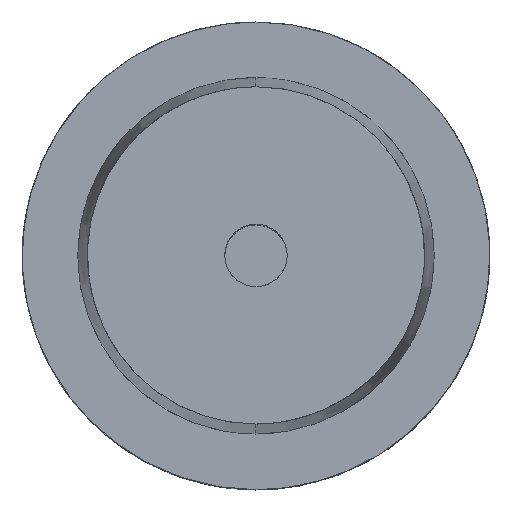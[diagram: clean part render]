
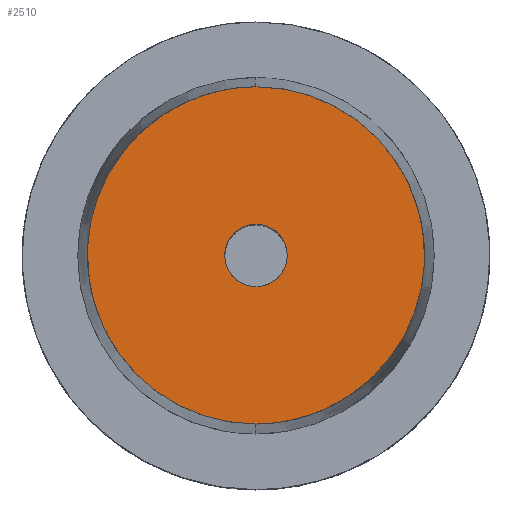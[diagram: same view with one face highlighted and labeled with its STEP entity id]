
A CAD part, top view. The second image highlights one B-rep face of the part: STEP entity #2510.
In plain terms, the highlighted planar face has unit normal (0, 0, -1).
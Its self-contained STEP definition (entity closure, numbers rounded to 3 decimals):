
#2510 = ADVANCED_FACE('',(#2511,#2558),#2527,.T.);
#2511 = FACE_BOUND('',#2512,.T.);
#2512 = EDGE_LOOP('',(#2513,#2540));
#2513 = ORIENTED_EDGE('',*,*,#2514,.T.);
#2514 = EDGE_CURVE('',#2515,#2517,#2519,.T.);
#2515 = VERTEX_POINT('',#2516);
#2516 = CARTESIAN_POINT('',(0.,22.717,32.));
#2517 = VERTEX_POINT('',#2518);
#2518 = CARTESIAN_POINT('',(0.,-22.717,32.));
#2519 = SURFACE_CURVE('',#2520,(#2526),.PCURVE_S1.);
#2520 = ( BOUNDED_CURVE() B_SPLINE_CURVE(2,(#2521,#2522,#2523,#2524,
#2525),.UNSPECIFIED.,.F.,.F.) B_SPLINE_CURVE_WITH_KNOTS((3,2,3),(0.,0.5,
1.),.PIECEWISE_BEZIER_KNOTS.) CURVE() GEOMETRIC_REPRESENTATION_ITEM() 
RATIONAL_B_SPLINE_CURVE((1.,0.707,1.,0.707,1.)) 
REPRESENTATION_ITEM('') );
#2521 = CARTESIAN_POINT('',(0.,22.717,32.));
#2522 = CARTESIAN_POINT('',(22.717,22.717,32.));
#2523 = CARTESIAN_POINT('',(22.717,0.,32.));
#2524 = CARTESIAN_POINT('',(22.717,-22.717,32.));
#2525 = CARTESIAN_POINT('',(0.,-22.717,32.));
#2526 = PCURVE('',#2527,#2532);
#2527 = PLANE('',#2528);
#2528 = AXIS2_PLACEMENT_3D('',#2529,#2530,#2531);
#2529 = CARTESIAN_POINT('',(0.,0.,32.)
  );
#2530 = DIRECTION('',(0.,0.,-1.));
#2531 = DIRECTION('',(0.,1.,0.));
#2532 = DEFINITIONAL_REPRESENTATION('',(#2533),#2539);
#2533 = ( BOUNDED_CURVE() B_SPLINE_CURVE(2,(#2534,#2535,#2536,#2537,
#2538),.UNSPECIFIED.,.F.,.F.) B_SPLINE_CURVE_WITH_KNOTS((3,2,3),(0.,0.5,
1.),.PIECEWISE_BEZIER_KNOTS.) CURVE() GEOMETRIC_REPRESENTATION_ITEM() 
RATIONAL_B_SPLINE_CURVE((1.,0.707,1.,0.707,1.)) 
REPRESENTATION_ITEM('') );
#2534 = CARTESIAN_POINT('',(22.717,0.));
#2535 = CARTESIAN_POINT('',(22.717,22.717));
#2536 = CARTESIAN_POINT('',(0.,22.717));
#2537 = CARTESIAN_POINT('',(-22.717,22.717));
#2538 = CARTESIAN_POINT('',(-22.717,0.));
#2539 = ( GEOMETRIC_REPRESENTATION_CONTEXT(2) 
PARAMETRIC_REPRESENTATION_CONTEXT() REPRESENTATION_CONTEXT('2D SPACE',''
  ) );
#2540 = ORIENTED_EDGE('',*,*,#2541,.T.);
#2541 = EDGE_CURVE('',#2517,#2515,#2542,.T.);
#2542 = SURFACE_CURVE('',#2543,(#2549),.PCURVE_S1.);
#2543 = ( BOUNDED_CURVE() B_SPLINE_CURVE(2,(#2544,#2545,#2546,#2547,
#2548),.UNSPECIFIED.,.F.,.F.) B_SPLINE_CURVE_WITH_KNOTS((3,2,3),(0.,0.5,
1.),.PIECEWISE_BEZIER_KNOTS.) CURVE() GEOMETRIC_REPRESENTATION_ITEM() 
RATIONAL_B_SPLINE_CURVE((1.,0.707,1.,0.707,1.)) 
REPRESENTATION_ITEM('') );
#2544 = CARTESIAN_POINT('',(0.,-22.717,32.));
#2545 = CARTESIAN_POINT('',(-22.717,-22.717,32.));
#2546 = CARTESIAN_POINT('',(-22.717,0.,32.));
#2547 = CARTESIAN_POINT('',(-22.717,22.717,32.));
#2548 = CARTESIAN_POINT('',(0.,22.717,32.));
#2549 = PCURVE('',#2527,#2550);
#2550 = DEFINITIONAL_REPRESENTATION('',(#2551),#2557);
#2551 = ( BOUNDED_CURVE() B_SPLINE_CURVE(2,(#2552,#2553,#2554,#2555,
#2556),.UNSPECIFIED.,.F.,.F.) B_SPLINE_CURVE_WITH_KNOTS((3,2,3),(0.,0.5,
1.),.PIECEWISE_BEZIER_KNOTS.) CURVE() GEOMETRIC_REPRESENTATION_ITEM() 
RATIONAL_B_SPLINE_CURVE((1.,0.707,1.,0.707,1.)) 
REPRESENTATION_ITEM('') );
#2552 = CARTESIAN_POINT('',(-22.717,0.));
#2553 = CARTESIAN_POINT('',(-22.717,-22.717));
#2554 = CARTESIAN_POINT('',(0.,-22.717));
#2555 = CARTESIAN_POINT('',(22.717,-22.717));
#2556 = CARTESIAN_POINT('',(22.717,0.));
#2557 = ( GEOMETRIC_REPRESENTATION_CONTEXT(2) 
PARAMETRIC_REPRESENTATION_CONTEXT() REPRESENTATION_CONTEXT('2D SPACE',''
  ) );
#2558 = FACE_BOUND('',#2559,.T.);
#2559 = EDGE_LOOP('',(#2560,#2582));
#2560 = ORIENTED_EDGE('',*,*,#2561,.T.);
#2561 = EDGE_CURVE('',#2562,#2564,#2566,.T.);
#2562 = VERTEX_POINT('',#2563);
#2563 = CARTESIAN_POINT('',(0.,4.2,32.));
#2564 = VERTEX_POINT('',#2565);
#2565 = CARTESIAN_POINT('',(0.,-4.2,32.));
#2566 = SURFACE_CURVE('',#2567,(#2573),.PCURVE_S1.);
#2567 = ( BOUNDED_CURVE() B_SPLINE_CURVE(2,(#2568,#2569,#2570,#2571,
#2572),.UNSPECIFIED.,.F.,.F.) B_SPLINE_CURVE_WITH_KNOTS((3,2,3),(0.,0.5,
1.),.PIECEWISE_BEZIER_KNOTS.) CURVE() GEOMETRIC_REPRESENTATION_ITEM() 
RATIONAL_B_SPLINE_CURVE((1.,0.707,1.,0.707,1.)) 
REPRESENTATION_ITEM('') );
#2568 = CARTESIAN_POINT('',(0.,4.2,32.));
#2569 = CARTESIAN_POINT('',(-4.2,4.2,32.));
#2570 = CARTESIAN_POINT('',(-4.2,0.,32.));
#2571 = CARTESIAN_POINT('',(-4.2,-4.2,32.));
#2572 = CARTESIAN_POINT('',(0.,-4.2,32.));
#2573 = PCURVE('',#2527,#2574);
#2574 = DEFINITIONAL_REPRESENTATION('',(#2575),#2581);
#2575 = ( BOUNDED_CURVE() B_SPLINE_CURVE(2,(#2576,#2577,#2578,#2579,
#2580),.UNSPECIFIED.,.F.,.F.) B_SPLINE_CURVE_WITH_KNOTS((3,2,3),(0.,0.5,
1.),.PIECEWISE_BEZIER_KNOTS.) CURVE() GEOMETRIC_REPRESENTATION_ITEM() 
RATIONAL_B_SPLINE_CURVE((1.,0.707,1.,0.707,1.)) 
REPRESENTATION_ITEM('') );
#2576 = CARTESIAN_POINT('',(4.2,0.));
#2577 = CARTESIAN_POINT('',(4.2,-4.2));
#2578 = CARTESIAN_POINT('',(0.,-4.2));
#2579 = CARTESIAN_POINT('',(-4.2,-4.2));
#2580 = CARTESIAN_POINT('',(-4.2,0.));
#2581 = ( GEOMETRIC_REPRESENTATION_CONTEXT(2) 
PARAMETRIC_REPRESENTATION_CONTEXT() REPRESENTATION_CONTEXT('2D SPACE',''
  ) );
#2582 = ORIENTED_EDGE('',*,*,#2583,.T.);
#2583 = EDGE_CURVE('',#2564,#2562,#2584,.T.);
#2584 = SURFACE_CURVE('',#2585,(#2591),.PCURVE_S1.);
#2585 = ( BOUNDED_CURVE() B_SPLINE_CURVE(2,(#2586,#2587,#2588,#2589,
#2590),.UNSPECIFIED.,.F.,.F.) B_SPLINE_CURVE_WITH_KNOTS((3,2,3),(0.,0.5,
1.),.PIECEWISE_BEZIER_KNOTS.) CURVE() GEOMETRIC_REPRESENTATION_ITEM() 
RATIONAL_B_SPLINE_CURVE((1.,0.707,1.,0.707,1.)) 
REPRESENTATION_ITEM('') );
#2586 = CARTESIAN_POINT('',(0.,-4.2,32.));
#2587 = CARTESIAN_POINT('',(4.2,-4.2,32.));
#2588 = CARTESIAN_POINT('',(4.2,0.,32.));
#2589 = CARTESIAN_POINT('',(4.2,4.2,32.));
#2590 = CARTESIAN_POINT('',(0.,4.2,32.));
#2591 = PCURVE('',#2527,#2592);
#2592 = DEFINITIONAL_REPRESENTATION('',(#2593),#2599);
#2593 = ( BOUNDED_CURVE() B_SPLINE_CURVE(2,(#2594,#2595,#2596,#2597,
#2598),.UNSPECIFIED.,.F.,.F.) B_SPLINE_CURVE_WITH_KNOTS((3,2,3),(0.,0.5,
1.),.PIECEWISE_BEZIER_KNOTS.) CURVE() GEOMETRIC_REPRESENTATION_ITEM() 
RATIONAL_B_SPLINE_CURVE((1.,0.707,1.,0.707,1.)) 
REPRESENTATION_ITEM('') );
#2594 = CARTESIAN_POINT('',(-4.2,0.));
#2595 = CARTESIAN_POINT('',(-4.2,4.2));
#2596 = CARTESIAN_POINT('',(0.,4.2));
#2597 = CARTESIAN_POINT('',(4.2,4.2));
#2598 = CARTESIAN_POINT('',(4.2,0.));
#2599 = ( GEOMETRIC_REPRESENTATION_CONTEXT(2) 
PARAMETRIC_REPRESENTATION_CONTEXT() REPRESENTATION_CONTEXT('2D SPACE',''
  ) );
